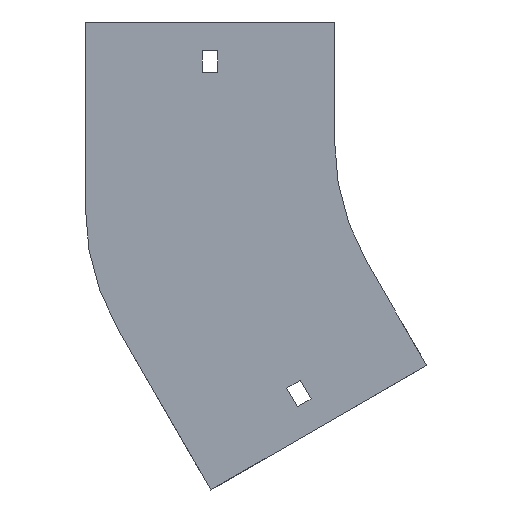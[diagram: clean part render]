
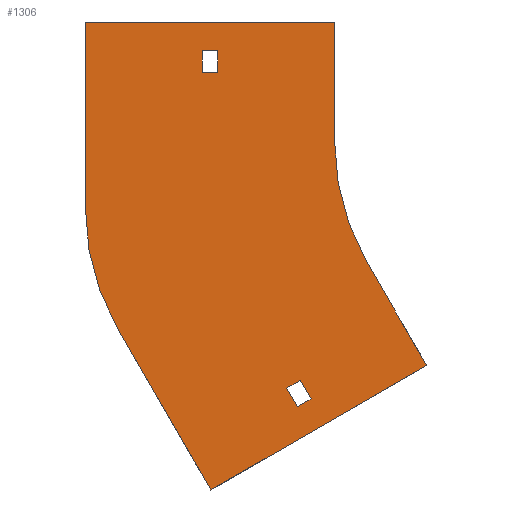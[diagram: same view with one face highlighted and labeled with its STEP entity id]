
A CAD part, front view. The second image highlights one B-rep face of the part: STEP entity #1306.
In plain terms, the highlighted planar face has unit normal (0, -1, 0).
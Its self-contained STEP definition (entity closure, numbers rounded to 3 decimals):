
#3 = ORIENTED_EDGE ( 'NONE', *, *, #60, .F. ) ;
#22 = ORIENTED_EDGE ( 'NONE', *, *, #1415, .T. ) ;
#40 = LINE ( 'NONE', #794, #600 ) ;
#60 = EDGE_CURVE ( 'NONE', #244, #418, #1101, .T. ) ;
#66 = CARTESIAN_POINT ( 'NONE',  ( -119.95, 0., -102.74 ) ) ;
#67 = DIRECTION ( 'NONE',  ( 0., 0., -1. ) ) ;
#74 = VECTOR ( 'NONE', #1880, 1000. ) ;
#75 = LINE ( 'NONE', #1597, #308 ) ;
#88 = CARTESIAN_POINT ( 'NONE',  ( -148.75, 0., 29. ) ) ;
#98 = VERTEX_POINT ( 'NONE', #1120 ) ;
#107 = EDGE_CURVE ( 'NONE', #98, #233, #749, .T. ) ;
#127 = FACE_BOUND ( 'NONE', #560, .T. ) ;
#146 = VERTEX_POINT ( 'NONE', #876 ) ;
#175 = EDGE_LOOP ( 'NONE', ( #910, #3, #198, #485, #1937, #1195, #814, #722 ) ) ;
#195 = AXIS2_PLACEMENT_3D ( 'NONE', #816, #1405, #67 ) ;
#198 = ORIENTED_EDGE ( 'NONE', *, *, #1130, .F. ) ;
#229 = DIRECTION ( 'NONE',  ( 0., 0., 1. ) ) ;
#233 = VERTEX_POINT ( 'NONE', #398 ) ;
#240 = CARTESIAN_POINT ( 'NONE',  ( -104., 0., -27.867 ) ) ;
#242 = EDGE_CURVE ( 'NONE', #1510, #522, #1574, .T. ) ;
#244 = VERTEX_POINT ( 'NONE', #353 ) ;
#273 = CARTESIAN_POINT ( 'NONE',  ( -155.25, 0., 29. ) ) ;
#308 = VECTOR ( 'NONE', #684, 1000. ) ;
#312 = VERTEX_POINT ( 'NONE', #1280 ) ;
#313 = CARTESIAN_POINT ( 'NONE',  ( -61.603, 0., -93.301 ) ) ;
#329 = VECTOR ( 'NONE', #851, 1000. ) ;
#352 = ORIENTED_EDGE ( 'NONE', *, *, #1159, .F. ) ;
#353 = CARTESIAN_POINT ( 'NONE',  ( -204., 0., -27.867 ) ) ;
#366 = DIRECTION ( 'NONE',  ( 0., 0., 1. ) ) ;
#397 = LINE ( 'NONE', #66, #650 ) ;
#398 = CARTESIAN_POINT ( 'NONE',  ( -86.603, 0., -50. ) ) ;
#403 = CARTESIAN_POINT ( 'NONE',  ( -204., 0., 50. ) ) ;
#418 = VERTEX_POINT ( 'NONE', #403 ) ;
#438 = DIRECTION ( 'NONE',  ( 1., 0., 0. ) ) ;
#460 = VECTOR ( 'NONE', #1474, 1000. ) ;
#466 = CARTESIAN_POINT ( 'NONE',  ( -155.25, 0., 29. ) ) ;
#484 = CARTESIAN_POINT ( 'NONE',  ( -190.603, 0., -77.867 ) ) ;
#485 = ORIENTED_EDGE ( 'NONE', *, *, #759, .F. ) ;
#512 = CARTESIAN_POINT ( 'NONE',  ( -115.45, 0., -110.534 ) ) ;
#516 = VECTOR ( 'NONE', #1659, 1000. ) ;
#522 = VERTEX_POINT ( 'NONE', #1898 ) ;
#529 = ORIENTED_EDGE ( 'NONE', *, *, #1162, .T. ) ;
#533 = CARTESIAN_POINT ( 'NONE',  ( -155.25, 0., 29. ) ) ;
#537 = EDGE_CURVE ( 'NONE', #604, #1193, #1600, .T. ) ;
#556 = LINE ( 'NONE', #273, #329 ) ;
#560 = EDGE_LOOP ( 'NONE', ( #689, #352, #1134, #1709 ) ) ;
#561 = DIRECTION ( 'NONE',  ( -0.866, 0., -0.5 ) ) ;
#581 = VERTEX_POINT ( 'NONE', #847 ) ;
#600 = VECTOR ( 'NONE', #1804, 1000. ) ;
#601 = DIRECTION ( 'NONE',  ( -0.5, 0., 0.866 ) ) ;
#604 = VERTEX_POINT ( 'NONE', #923 ) ;
#642 = LINE ( 'NONE', #466, #1373 ) ;
#650 = VECTOR ( 'NONE', #561, 1000. ) ;
#657 = VECTOR ( 'NONE', #438, 1000. ) ;
#684 = DIRECTION ( 'NONE',  ( 0.5, 0., -0.866 ) ) ;
#687 = VERTEX_POINT ( 'NONE', #1693 ) ;
#689 = ORIENTED_EDGE ( 'NONE', *, *, #978, .F. ) ;
#692 = VECTOR ( 'NONE', #1298, 1000. ) ;
#722 = ORIENTED_EDGE ( 'NONE', *, *, #1406, .F. ) ;
#727 = CARTESIAN_POINT ( 'NONE',  ( 0., 0., 0. ) ) ;
#728 = AXIS2_PLACEMENT_3D ( 'NONE', #240, #1903, #229 ) ;
#749 = CIRCLE ( 'NONE', #195, 100. ) ;
#759 = EDGE_CURVE ( 'NONE', #522, #1817, #1166, .T. ) ;
#794 = CARTESIAN_POINT ( 'NONE',  ( -100., 0., 50. ) ) ;
#814 = ORIENTED_EDGE ( 'NONE', *, *, #107, .F. ) ;
#816 = CARTESIAN_POINT ( 'NONE',  ( 0., 0., 0. ) ) ;
#847 = CARTESIAN_POINT ( 'NONE',  ( -109.821, 0., -107.284 ) ) ;
#851 = DIRECTION ( 'NONE',  ( 0., 0., 1. ) ) ;
#853 = CARTESIAN_POINT ( 'NONE',  ( -151.669, 0., -145.301 ) ) ;
#854 = LINE ( 'NONE', #1628, #692 ) ;
#876 = CARTESIAN_POINT ( 'NONE',  ( -115.45, 0., -110.534 ) ) ;
#878 = DIRECTION ( 'NONE',  ( 0., -1., 0. ) ) ;
#910 = ORIENTED_EDGE ( 'NONE', *, *, #1613, .F. ) ;
#923 = CARTESIAN_POINT ( 'NONE',  ( -148.75, 0., 38. ) ) ;
#957 = CARTESIAN_POINT ( 'NONE',  ( -204., 0., -27.867 ) ) ;
#966 = CARTESIAN_POINT ( 'NONE',  ( -100., 0., 50. ) ) ;
#978 = EDGE_CURVE ( 'NONE', #146, #581, #1390, .T. ) ;
#1060 = ORIENTED_EDGE ( 'NONE', *, *, #1091, .T. ) ;
#1064 = DIRECTION ( 'NONE',  ( -0.866, 0., -0.5 ) ) ;
#1073 = EDGE_CURVE ( 'NONE', #581, #687, #1119, .T. ) ;
#1081 = EDGE_CURVE ( 'NONE', #687, #1906, #397, .T. ) ;
#1091 = EDGE_CURVE ( 'NONE', #1156, #312, #556, .T. ) ;
#1101 = LINE ( 'NONE', #957, #1343 ) ;
#1102 = ORIENTED_EDGE ( 'NONE', *, *, #537, .T. ) ;
#1119 = LINE ( 'NONE', #1404, #1579 ) ;
#1120 = CARTESIAN_POINT ( 'NONE',  ( -100., 0., 0. ) ) ;
#1130 = EDGE_CURVE ( 'NONE', #1817, #244, #1566, .T. ) ;
#1134 = ORIENTED_EDGE ( 'NONE', *, *, #1081, .F. ) ;
#1156 = VERTEX_POINT ( 'NONE', #533 ) ;
#1159 = EDGE_CURVE ( 'NONE', #1906, #146, #75, .T. ) ;
#1162 = EDGE_CURVE ( 'NONE', #312, #604, #1708, .T. ) ;
#1166 = LINE ( 'NONE', #853, #1312 ) ;
#1188 = FACE_OUTER_BOUND ( 'NONE', #175, .T. ) ;
#1193 = VERTEX_POINT ( 'NONE', #88 ) ;
#1195 = ORIENTED_EDGE ( 'NONE', *, *, #1648, .F. ) ;
#1280 = CARTESIAN_POINT ( 'NONE',  ( -155.25, 0., 38. ) ) ;
#1298 = DIRECTION ( 'NONE',  ( 0.5, 0., -0.866 ) ) ;
#1306 = ADVANCED_FACE ( 'NONE', ( #1471, #1188, #127 ), #1791, .T. ) ;
#1312 = VECTOR ( 'NONE', #601, 1000. ) ;
#1337 = LINE ( 'NONE', #1475, #657 ) ;
#1343 = VECTOR ( 'NONE', #366, 1000. ) ;
#1373 = VECTOR ( 'NONE', #1529, 1000. ) ;
#1390 = LINE ( 'NONE', #512, #516 ) ;
#1404 = CARTESIAN_POINT ( 'NONE',  ( -114.321, 0., -99.49 ) ) ;
#1405 = DIRECTION ( 'NONE',  ( 0., -1., 0. ) ) ;
#1406 = EDGE_CURVE ( 'NONE', #1543, #98, #40, .T. ) ;
#1415 = EDGE_CURVE ( 'NONE', #1193, #1156, #642, .T. ) ;
#1425 = VECTOR ( 'NONE', #1064, 1000. ) ;
#1448 = EDGE_LOOP ( 'NONE', ( #1060, #529, #1102, #22 ) ) ;
#1471 = FACE_BOUND ( 'NONE', #1448, .T. ) ;
#1474 = DIRECTION ( 'NONE',  ( 0., 0., -1. ) ) ;
#1475 = CARTESIAN_POINT ( 'NONE',  ( -204., 0., 50. ) ) ;
#1510 = VERTEX_POINT ( 'NONE', #1556 ) ;
#1518 = AXIS2_PLACEMENT_3D ( 'NONE', #727, #878, #1938 ) ;
#1529 = DIRECTION ( 'NONE',  ( -1., 0., 0. ) ) ;
#1543 = VERTEX_POINT ( 'NONE', #966 ) ;
#1556 = CARTESIAN_POINT ( 'NONE',  ( -61.603, 0., -93.301 ) ) ;
#1566 = CIRCLE ( 'NONE', #728, 100. ) ;
#1574 = LINE ( 'NONE', #313, #1425 ) ;
#1579 = VECTOR ( 'NONE', #1717, 1000. ) ;
#1597 = CARTESIAN_POINT ( 'NONE',  ( -119.95, 0., -102.74 ) ) ;
#1600 = LINE ( 'NONE', #1758, #460 ) ;
#1613 = EDGE_CURVE ( 'NONE', #418, #1543, #1337, .T. ) ;
#1628 = CARTESIAN_POINT ( 'NONE',  ( -86.603, 0., -50. ) ) ;
#1648 = EDGE_CURVE ( 'NONE', #233, #1510, #854, .T. ) ;
#1659 = DIRECTION ( 'NONE',  ( 0.866, 0., 0.5 ) ) ;
#1693 = CARTESIAN_POINT ( 'NONE',  ( -114.321, 0., -99.49 ) ) ;
#1708 = LINE ( 'NONE', #1894, #74 ) ;
#1709 = ORIENTED_EDGE ( 'NONE', *, *, #1073, .F. ) ;
#1717 = DIRECTION ( 'NONE',  ( -0.5, 0., 0.866 ) ) ;
#1758 = CARTESIAN_POINT ( 'NONE',  ( -148.75, 0., 29. ) ) ;
#1791 = PLANE ( 'NONE',  #1518 ) ;
#1804 = DIRECTION ( 'NONE',  ( 0., 0., -1. ) ) ;
#1817 = VERTEX_POINT ( 'NONE', #484 ) ;
#1853 = CARTESIAN_POINT ( 'NONE',  ( -119.95, 0., -102.74 ) ) ;
#1880 = DIRECTION ( 'NONE',  ( 1., 0., 0. ) ) ;
#1894 = CARTESIAN_POINT ( 'NONE',  ( -155.25, 0., 38. ) ) ;
#1898 = CARTESIAN_POINT ( 'NONE',  ( -151.669, 0., -145.301 ) ) ;
#1903 = DIRECTION ( 'NONE',  ( 0., 1., 0. ) ) ;
#1906 = VERTEX_POINT ( 'NONE', #1853 ) ;
#1937 = ORIENTED_EDGE ( 'NONE', *, *, #242, .F. ) ;
#1938 = DIRECTION ( 'NONE',  ( 0., 0., -1. ) ) ;
